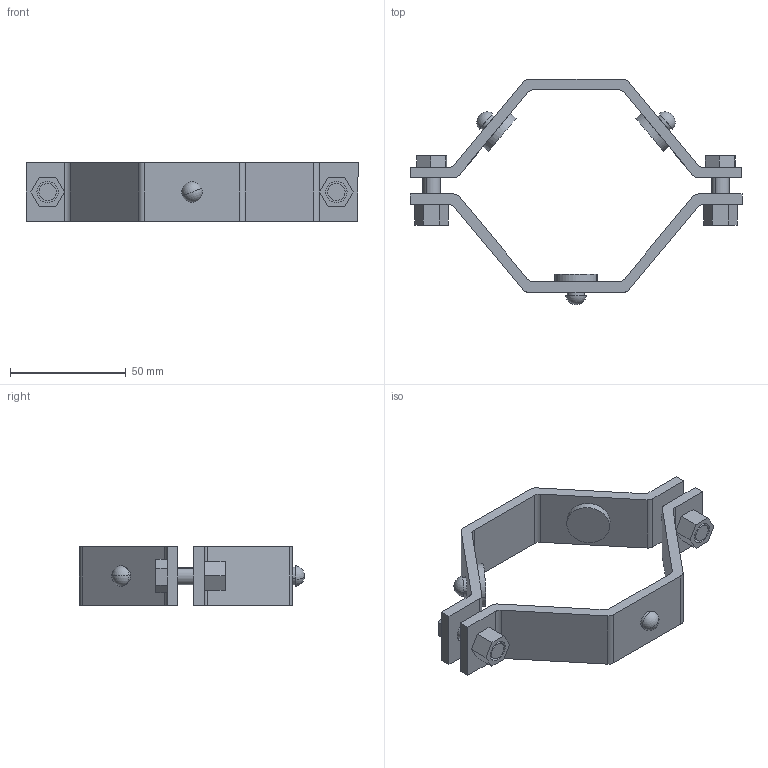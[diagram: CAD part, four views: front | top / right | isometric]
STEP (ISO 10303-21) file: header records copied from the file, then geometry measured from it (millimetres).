
FILE_DESCRIPTION (( 'STEP AP214' ), '1' );
FILE_NAME ('E24 3.0.STEP', '2025-07-16T18:16:32', ( '' ), ( '' ), 'SwSTEP 2.0', 'SolidWorks 2022', '' );
FILE_SCHEMA (( 'AUTOMOTIVE_DESIGN' ));
Length unit declared in the file: inch
Products named in the file (6): E24GROMMET 1.5-4.0; E24 3.0; E24BOLT; E24-2HOLE 3.0; E24NUT; E24-1HOLE 3.0
Assembly tree (9 placements, depth 2):
  E24 3.0
    E24-1HOLE 3.0
    E24-2HOLE 3.0
    E24BOLT  x2
    E24GROMMET 1.5-4.0  x3
    E24NUT  x2
Bounding box: 143.51 x 97.31 x 25.5 mm (x, y, z)
Volume: 48351 mm3; surface area: 28528.6 mm2
Topology: 9 solids, 9 shells, 133 faces, 318 edges, 213 vertices
Faces by surface type: plane 73, cylinder 54, sphere 6
Entity records: 3116 total; most frequent: DIRECTION 522, CARTESIAN_POINT 490, ORIENTED_EDGE 464, EDGE_CURVE 232, AXIS2_PLACEMENT_3D 187, VERTEX_POINT 155, VECTOR 148, LINE 148
